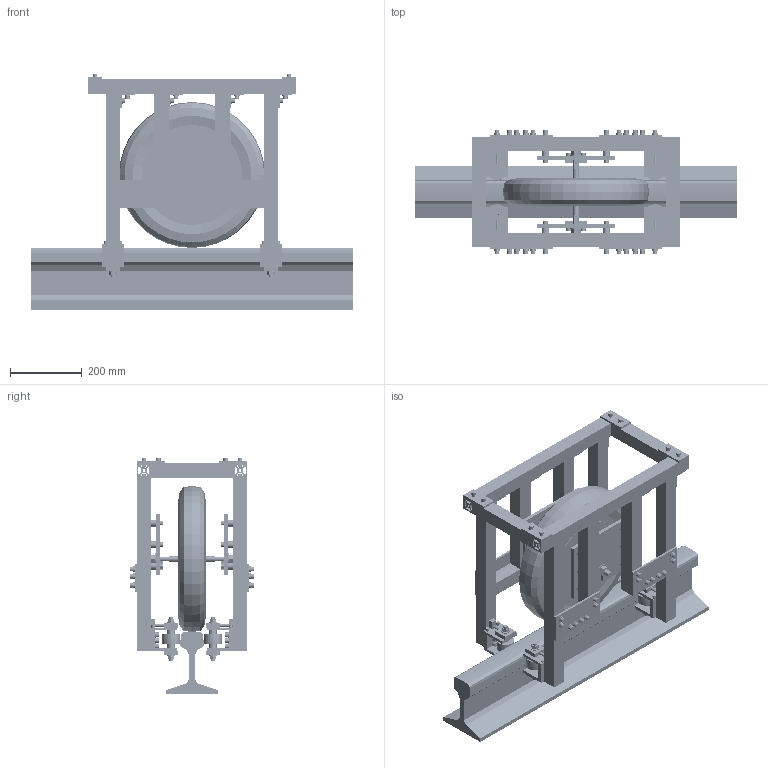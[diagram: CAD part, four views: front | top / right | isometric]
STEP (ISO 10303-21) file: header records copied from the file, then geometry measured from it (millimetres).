
FILE_DESCRIPTION(('Open CASCADE Model'),'2;1');
FILE_NAME('Open CASCADE Shape Model','2026-11-17T01:24:53',('Author'),( 'Open CASCADE'),'Open CASCADE STEP processor 7.8','Open CASCADE 7.8' ,'Unknown');
FILE_SCHEMA(('AUTOMOTIVE_DESIGN { 1 0 10303 214 1 1 1 1 }'));
Length unit declared in the file: millimetre
Products named in the file (425): QS212_StraightRail_Module_DRAFT_R01; R00_Rail_KRS60K_ENVELOPE_SITE_UNCONFIRMED; M01_Rotating_tire_ASSUMED; M02_Rotating_motor_envelope; M03_Fixed_axle_INPUT_REFERENCE; F01_Long_beam_-1; F02_Post_motor_-1_-1; F02_Post_guide_-1_-1; F02_Post_motor_1_-1; F02_Post_guide_1_-1; F01_Long_beam_1; F02_Post_motor_-1_1; F02_Post_guide_-1_1; F02_Post_motor_1_1; F02_Post_guide_1_1; F03_Cross_beam_-1; F03_Cross_beam_1; A01_Axle_plate_-1; A02_Torque_keeper_-1; A03_M16_washer_-1; A04_M16_axle_nut_-1; A01_Axle_plate_1; A02_Torque_keeper_1; A03_M16_washer_1; A04_M16_axle_nut_1; A05_Spacer_-1_-1_0; B01_Plate_M8x35_-1_-1_0; B02_Plate_Tnut_M8_-1_-1_0; A05_Spacer_-1_-1_1; B01_Plate_M8x35_-1_-1_1; B02_Plate_Tnut_M8_-1_-1_1; A05_Spacer_-1_-1_2; B01_Plate_M8x35_-1_-1_2; B02_Plate_Tnut_M8_-1_-1_2; A05_Spacer_-1_1_0; B01_Plate_M8x35_-1_1_0; B02_Plate_Tnut_M8_-1_1_0; A05_Spacer_-1_1_1; B01_Plate_M8x35_-1_1_1; B02_Plate_Tnut_M8_-1_1_1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
Assembly tree (424 placements, depth 2):
  QS212_StraightRail_Module_DRAFT_R01
    R00_Rail_KRS60K_ENVELOPE_SITE_UNCONFIRMED
    M01_Rotating_tire_ASSUMED
    M02_Rotating_motor_envelope
    M03_Fixed_axle_INPUT_REFERENCE
    F01_Long_beam_-1
    F02_Post_motor_-1_-1
    F02_Post_guide_-1_-1
    F02_Post_motor_1_-1
    F02_Post_guide_1_-1
    F01_Long_beam_1
    F02_Post_motor_-1_1
    F02_Post_guide_-1_1
    F02_Post_motor_1_1
    F02_Post_guide_1_1
    F03_Cross_beam_-1
    F03_Cross_beam_1
    A01_Axle_plate_-1
    A02_Torque_keeper_-1
    A03_M16_washer_-1
    A04_M16_axle_nut_-1
    A01_Axle_plate_1
    A02_Torque_keeper_1
    A03_M16_washer_1
    A04_M16_axle_nut_1
    A05_Spacer_-1_-1_0
    B01_Plate_M8x35_-1_-1_0
    B02_Plate_Tnut_M8_-1_-1_0
    A05_Spacer_-1_-1_1
    B01_Plate_M8x35_-1_-1_1
    B02_Plate_Tnut_M8_-1_-1_1
    A05_Spacer_-1_-1_2
    B01_Plate_M8x35_-1_-1_2
    B02_Plate_Tnut_M8_-1_-1_2
    A05_Spacer_-1_1_0
    B01_Plate_M8x35_-1_1_0
    B02_Plate_Tnut_M8_-1_1_0
    A05_Spacer_-1_1_1
    B01_Plate_M8x35_-1_1_1
    B02_Plate_Tnut_M8_-1_1_1
    A05_Spacer_-1_1_2
    B01_Plate_M8x35_-1_1_2
    B02_Plate_Tnut_M8_-1_1_2
    B03_Keeper_M8x20_-1_-1
    B03_Keeper_M8x20_-1_1
    A05_Spacer_1_-1_0
    B01_Plate_M8x35_1_-1_0
    B02_Plate_Tnut_M8_1_-1_0
    A05_Spacer_1_-1_1
    B01_Plate_M8x35_1_-1_1
    B02_Plate_Tnut_M8_1_-1_1
    A05_Spacer_1_-1_2
    B01_Plate_M8x35_1_-1_2
    B02_Plate_Tnut_M8_1_-1_2
    A05_Spacer_1_1_0
    B01_Plate_M8x35_1_1_0
    B02_Plate_Tnut_M8_1_1_0
    A05_Spacer_1_1_1
    B01_Plate_M8x35_1_1_1
    B02_Plate_Tnut_M8_1_1_1
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Bounding box: 900 x 343.2 x 659.6 mm (x, y, z)
Volume: 22230604.3 mm3; surface area: 4118727.8 mm2
Topology: 424 solids, 424 shells, 2949 faces, 5873 edges, 3888 vertices
Faces by surface type: plane 2065, cylinder 800, cone 84
Full cylindrical faces by diameter (mm): 5 x8, 6 x8, 6.4 x8, 6.6 x8, 6.8 x104, 8 x88, 8.4 x116, 9 x96, 10 x8, 12 x24, 13 x104, 15 x12, 15.2 x12, 16 x119, 16.4 x2, 20 x12, 21 x12, 24 x12, 32 x18, 42 x8, 238 x2, 254 x2, 279 x1
Entity records: 164030 total; most frequent: CARTESIAN_POINT 29025, DIRECTION 23965, LINE 12601, VECTOR 12601, ORIENTED_EDGE 11746, PCURVE 11746, DEFINITIONAL_REPRESENTATION 11746, EDGE_CURVE 5873
